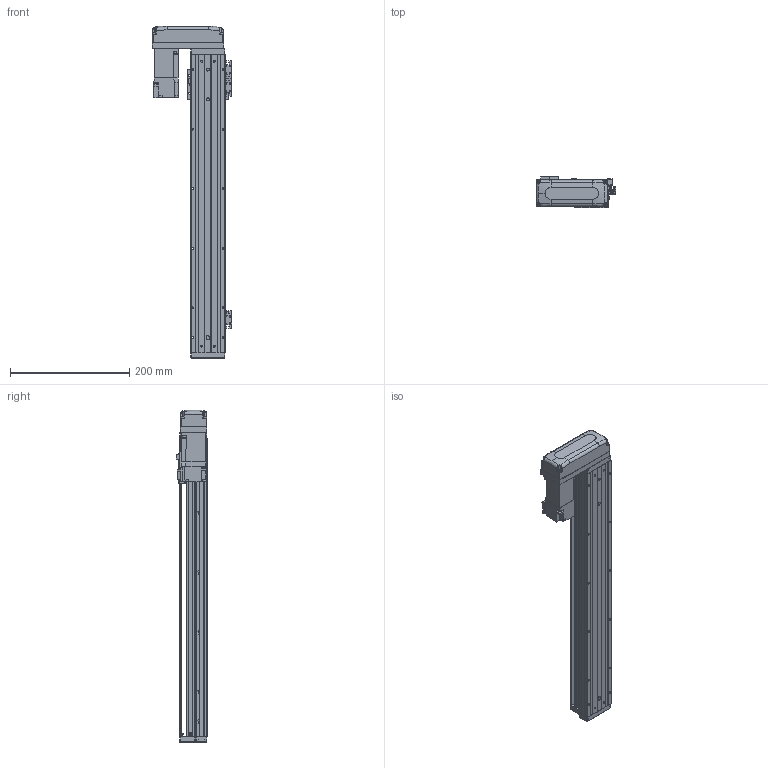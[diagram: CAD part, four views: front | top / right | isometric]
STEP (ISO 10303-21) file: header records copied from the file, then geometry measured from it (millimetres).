
FILE_DESCRIPTION (( 'STEP AP203' ), '1' );
FILE_NAME ('KTHA50-400-BR-M10-C4L.step', '2022-03-19T07:15:27', ( '微软用户' ), ( '微软中国' ), 'SwSTEP 2.0', 'SolidWorks 2020', '' );
FILE_SCHEMA (( 'CONFIG_CONTROL_DESIGN' ));
Length unit declared in the file: millimetre
Products named in the file (18): EE_SX911P_R; GBT 70.3-M3℅6; GBT77-2000 M3×3; HG-KR13（三菱）; KTHA50-001_500; GBT 70.1-M3℅6; CTHA50-015-2_CTHA60-015-2; KTHA50-002; CTHA60-017; CTHA60-033; KTHA50-004; GBT 70.1-M4×12; GBT 70.1-M3×15; KTHA50-005; CTHA60-016; KTHA50-400-BR-M10-C4L; GB¨uT 70.2-M3¡Á6_M3¡Á6; CTHA60-021
Assembly tree (53 placements, depth 2):
  KTHA50-400-BR-M10-C4L
    KTHA50-001_500
    KTHA50-002
    KTHA50-004
    KTHA50-005
    GB¨uT 70.2-M3¡Á6_M3¡Á6  x6
    EE_SX911P_R  x3
    GBT77-2000 M3×3  x6
    GBT 70.1-M3℅6  x6
    CTHA60-017  x3
    GBT 70.1-M4×12  x10
    CTHA60-016  x2
    CTHA60-021  x2
    GBT 70.3-M3℅6  x4
    HG-KR13（三菱）
    CTHA50-015-2_CTHA60-015-2
    CTHA60-033
    GBT 70.1-M3×15  x4
Bounding box: 133.82 x 52.3 x 557 mm (x, y, z)
Volume: 1185637.5 mm3; surface area: 291234.2 mm2
Topology: 56 solids, 56 shells, 2263 faces, 5351 edges, 3280 vertices
Faces by surface type: plane 1264, cylinder 550, cone 307, torus 100, bspline 26, sphere 16
Entity records: 38235 total; most frequent: CARTESIAN_POINT 7234, DIRECTION 5965, ORIENTED_EDGE 5714, EDGE_CURVE 2857, AXIS2_PLACEMENT_3D 2027, LINE 1911, VECTOR 1911, VERTEX_POINT 1794
